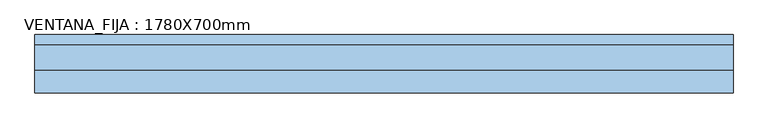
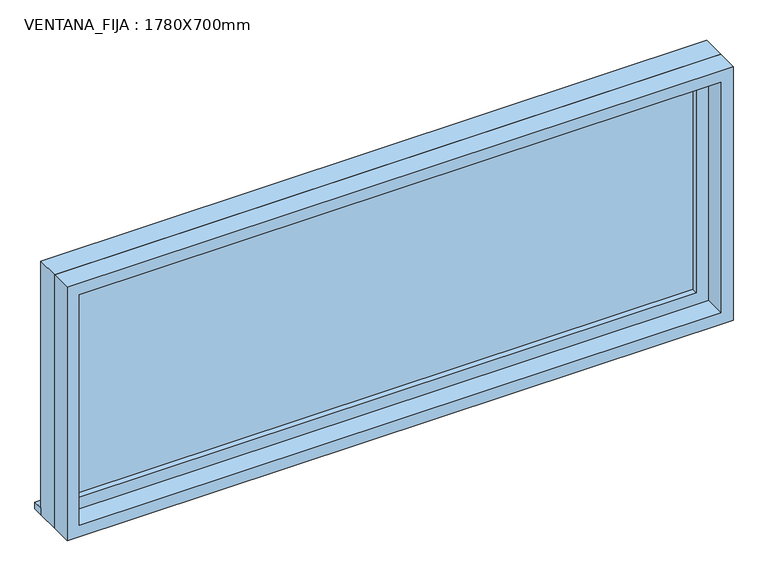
"""IFC4 building model written with IfcOpenShell, lengths in millimetres: window geometry, VENTANA_FIJA : 1780X700mm."""

from ifc_helpers import new_model, si_unit, frame, origin, place, context, project, spatial, polyline, outline, extrude, source, transform, mapped, element, save


def ventana_fija_1780x700mm_87993d91(model_context):
    return source(origin(), model_context, "Body", "SweptSolid", [
        extrude(outline(polyline([(-908.0570832, 85.4), (831.8570832, 85.4), (831.8570832, 60.0), (-908.0570832, 60.0), (-908.0570832, 85.4)])), frame((0.0, 0.0, 1400.0), z_axis=(0.0, 0.0, 1.0), x_axis=(1.0, 0.0, 0.0)), (0.0, 0.0, 1.0), 19.05),
        extrude(outline(polyline([(768.3570832, 12.425), (-844.5570832, 12.425), (-844.5570832, 25.125), (768.3570832, 25.125), (768.3570832, 12.425)])), frame((0.0, 0.0, 1463.5), z_axis=(0.0, 0.0, 1.0), x_axis=(1.0, 0.0, 0.0)), (0.0, 0.0, 1.0), 573.0),
        extrude(outline(polyline([(2080.95, -889.0070832), (1419.05, -889.0070832), (1419.05, 812.8070832), (2080.95, 812.8070832), (2080.95, -889.0070832)]), holes=[polyline([(2036.5, -844.5570832), (2036.5, 768.3570832), (1463.5, 768.3570832), (1463.5, -844.5570832), (2036.5, -844.5570832)])]), frame((0.0, -3.45, 0.0), z_axis=(0.0, 1.0, 0.0), x_axis=(0.0, 0.0, 1.0)), (0.0, 0.0, 1.0), 44.45),
        extrude(outline(polyline([(2100.0, -908.0570832), (1400.0, -908.0570832), (1400.0, 831.8570832), (2100.0, 831.8570832), (2100.0, -908.0570832)]), holes=[polyline([(2068.25, -876.3070832), (2068.25, 800.1070832), (1431.75, 800.1070832), (1431.75, -876.3070832), (2068.25, -876.3070832)])]), frame((0.0, -60.0, 0.0), z_axis=(0.0, 1.0, 0.0), x_axis=(0.0, 0.0, 1.0)), (0.0, 0.0, 1.0), 56.55),
        extrude(outline(polyline([(2100.0, 831.8570832), (2100.0, -908.0570832), (1400.0, -908.0570832), (1400.0, 831.8570832), (2100.0, 831.8570832)]), holes=[polyline([(2080.95, 812.8070832), (1419.05, 812.8070832), (1419.05, -889.0070832), (2080.95, -889.0070832), (2080.95, 812.8070832)])]), frame((0.0, -3.45, 0.0), z_axis=(0.0, 1.0, 0.0), x_axis=(0.0, 0.0, 1.0)), (0.0, 0.0, 1.0), 63.45),
    ])


if __name__ == "__main__":
    model = new_model("IFC4")
    model_context = context("Model", 3, world=origin())
    ifc_project = project(units=[si_unit("LENGTHUNIT", "METRE", prefix="MILLI")], contexts=[model_context])
    site = spatial("IfcSite", under=ifc_project)
    building = spatial("IfcBuilding", under=site)
    placement = place(None, origin())
    ventana_fija_1780x700mm_shape = ventana_fija_1780x700mm_87993d91(model_context)
    element("IfcWindow", 1, ObjectType="VENTANA_FIJA : 1780X700mm", at=placement, inside=building, context=model_context, shape_type="MappedRepresentation", body=[
        mapped(ventana_fija_1780x700mm_shape, transform((0.0, 0.0, 0.0), x_axis=(1.0, 0.0, 0.0), y_axis=(0.0, 1.0, 0.0), z_axis=(0.0, 0.0, 1.0))),
    ])
    save(model, "model.ifc")
